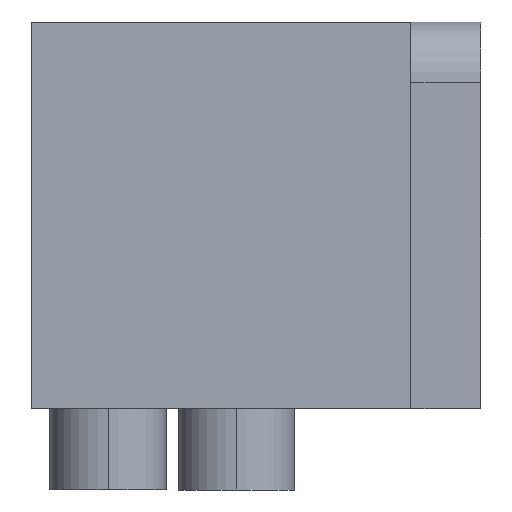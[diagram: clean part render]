
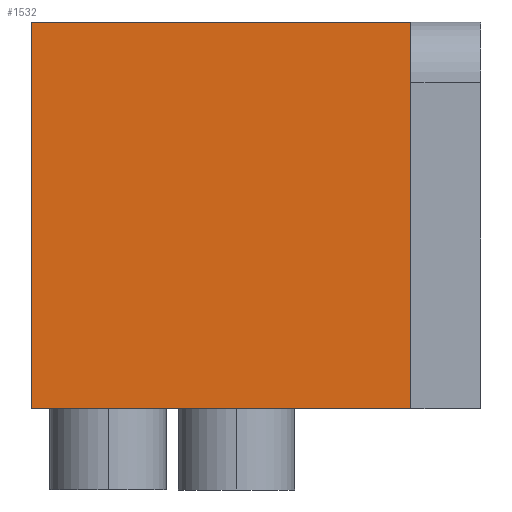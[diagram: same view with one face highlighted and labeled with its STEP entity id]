
A CAD part, left-side view. The second image highlights one B-rep face of the part: STEP entity #1532.
In plain terms, the highlighted planar face has unit normal (-1, 0, 0).
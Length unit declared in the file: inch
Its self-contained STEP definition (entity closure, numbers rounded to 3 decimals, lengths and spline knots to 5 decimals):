
#252 = LINE ( 'NONE', #1904, #261 ) ;
#261 = VECTOR ( 'NONE', #665, 39.37008 ) ;
#393 = DIRECTION ( 'NONE',  ( 0., 0., 1. ) ) ;
#394 = CARTESIAN_POINT ( 'NONE',  ( -0.9, 0.965, -0.415 ) ) ;
#408 = CARTESIAN_POINT ( 'NONE',  ( -0.9, 0.965, 0.415 ) ) ;
#460 = AXIS2_PLACEMENT_3D ( 'NONE', #1936, #1531, #2284 ) ;
#467 = VERTEX_POINT ( 'NONE', #1334 ) ;
#486 = EDGE_CURVE ( 'NONE', #495, #584, #1540, .T. ) ;
#495 = VERTEX_POINT ( 'NONE', #647 ) ;
#584 = VERTEX_POINT ( 'NONE', #1216 ) ;
#647 = CARTESIAN_POINT ( 'NONE',  ( -0.9, 0.15, -0.415 ) ) ;
#665 = DIRECTION ( 'NONE',  ( 0., -1., 0. ) ) ;
#713 = VECTOR ( 'NONE', #1151, 39.37008 ) ;
#764 = LINE ( 'NONE', #1469, #1704 ) ;
#800 = DIRECTION ( 'NONE',  ( 0., 0., 1. ) ) ;
#922 = ORIENTED_EDGE ( 'NONE', *, *, #1493, .T. ) ;
#1005 = CARTESIAN_POINT ( 'NONE',  ( -0.9, 0.15, -0.415 ) ) ;
#1068 = ORIENTED_EDGE ( 'NONE', *, *, #486, .T. ) ;
#1094 = EDGE_LOOP ( 'NONE', ( #1068, #1884, #2404, #922 ) ) ;
#1151 = DIRECTION ( 'NONE',  ( 0., -1., 0. ) ) ;
#1194 = PLANE ( 'NONE',  #460 ) ;
#1216 = CARTESIAN_POINT ( 'NONE',  ( -0.9, 0.15, 0.415 ) ) ;
#1246 = EDGE_CURVE ( 'NONE', #1736, #467, #764, .T. ) ;
#1334 = CARTESIAN_POINT ( 'NONE',  ( -0.9, 0.965, 0.415 ) ) ;
#1469 = CARTESIAN_POINT ( 'NONE',  ( -0.9, 0.965, -0.415 ) ) ;
#1493 = EDGE_CURVE ( 'NONE', #1736, #495, #252, .T. ) ;
#1531 = DIRECTION ( 'NONE',  ( 1., 0., 0. ) ) ;
#1532 = ADVANCED_FACE ( 'NONE', ( #1964 ), #1194, .F. ) ;
#1540 = LINE ( 'NONE', #1005, #2056 ) ;
#1704 = VECTOR ( 'NONE', #393, 39.37008 ) ;
#1736 = VERTEX_POINT ( 'NONE', #394 ) ;
#1865 = LINE ( 'NONE', #408, #713 ) ;
#1884 = ORIENTED_EDGE ( 'NONE', *, *, #2368, .F. ) ;
#1904 = CARTESIAN_POINT ( 'NONE',  ( -0.9, 0.965, -0.415 ) ) ;
#1936 = CARTESIAN_POINT ( 'NONE',  ( -0.9, 0.965, -0.415 ) ) ;
#1964 = FACE_OUTER_BOUND ( 'NONE', #1094, .T. ) ;
#2056 = VECTOR ( 'NONE', #800, 39.37008 ) ;
#2284 = DIRECTION ( 'NONE',  ( 0., 0., -1. ) ) ;
#2368 = EDGE_CURVE ( 'NONE', #467, #584, #1865, .T. ) ;
#2404 = ORIENTED_EDGE ( 'NONE', *, *, #1246, .F. ) ;
